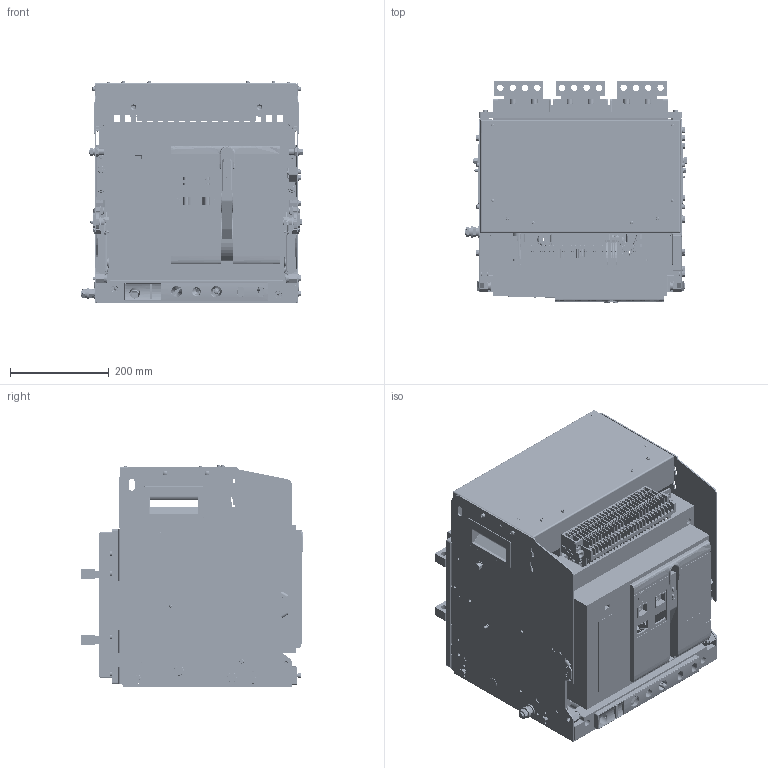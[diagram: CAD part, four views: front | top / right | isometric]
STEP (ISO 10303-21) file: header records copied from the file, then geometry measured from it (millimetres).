
FILE_DESCRIPTION((''),'2;1');
FILE_NAME('TENGEN_TGW1N-4000_3P_2500A-3200_ASM','2026-06-02T18:39:35',('chenjun'),(''),'CREO PARAMETRIC BY PTC INC, 2020354','CREO PARAMETRIC BY PTC INC, 2020354','');
FILE_SCHEMA(('CONFIG_CONTROL_DESIGN'));
Products named in the file (35): 8TZD_020_1016_1_1; GB_T809-M6X12-A_1_1; 5TZD_020_1043_ASM_1_ASM_1_ASM; 8TZD_001_1005_1_1; 8TZD_311_1031_1_1; 5TZD_260_1003_AF0_ASM_1_ASM_1_ASM; 8TZD_580_1088_1_1; 5TZD_260_1003_AF1_ASM_1_ASM_1_ASM; GB_T819_1-M6X16_1_1; 8TZD_580_1083_AF0_1_1; 8TZD_580_1082_AF0_1_1; 8TZD_580_1082_AF1_1_1; 8TZD_580_1083_AF1_1_1; 8TZD_580_1082_AF2_1_1; 8TZD_580_1082_AF3_1_1; GB_T97_1_8_1_1; GB_T93-8_1_1; GB_T70_1-M8X25_1_1; 5TZD_020_1044_AF0_ASM_1_ASM_1_ASM; GB_T97_1_6_1_1; GB_T93-6_1_1; GB_T70_1-M6X20_1_1; 6TZD_229_6011_AF0_ASM_1_ASM_1_ASM; 5TZD_558_1012_1_1; ASM0002_ASM_1_1; 111111111_1_1; 2TZD_257_6012_ASM_1_ASM_1_ASM; CTZ_1_1_2_1; CTZ_1_1_2_2; CTZ_1_1_2_3; CTZ_1_1_2_ASM; MZ_1; FHZ_1; 2TZD_257_6012_ASM_ASM_1_ASM; TENGEN_TGW1N-4000_3P_2500A-3200_ASM
Assembly tree (177 placements, depth 7):
  TENGEN_TGW1N-4000_3P_2500A-3200_ASM
    2TZD_257_6012_ASM_ASM_1_ASM
      2TZD_257_6012_ASM_1_ASM_1_ASM
        6TZD_229_6011_AF0_ASM_1_ASM_1_ASM
          5TZD_020_1044_AF0_ASM_1_ASM_1_ASM
            5TZD_020_1043_ASM_1_ASM_1_ASM
              8TZD_020_1016_1_1
              GB_T809-M6X12-A_1_1  x24
            5TZD_260_1003_AF0_ASM_1_ASM_1_ASM
              8TZD_001_1005_1_1
              8TZD_311_1031_1_1
            8TZD_580_1088_1_1  x6
            5TZD_260_1003_AF1_ASM_1_ASM_1_ASM
              8TZD_001_1005_1_1
              8TZD_311_1031_1_1
            GB_T819_1-M6X16_1_1  x24
            8TZD_580_1083_AF0_1_1
            8TZD_580_1082_AF0_1_1
            8TZD_580_1082_AF1_1_1
            8TZD_580_1083_AF1_1_1
            8TZD_580_1082_AF2_1_1
            8TZD_580_1082_AF3_1_1
            GB_T97_1_8_1_1  x24
            GB_T93-8_1_1  x24
            GB_T70_1-M8X25_1_1  x24
          GB_T97_1_6_1_1  x8
          GB_T93-6_1_1  x8
          GB_T70_1-M6X20_1_1  x8
        5TZD_558_1012_1_1
        ASM0002_ASM_1_1
        111111111_1_1
      CTZ_1_1_2_ASM
        CTZ_1_1_2_1
        CTZ_1_1_2_2
        CTZ_1_1_2_3
      MZ_1
      FHZ_1
Bounding box: 452.15 x 451 x 452 mm (x, y, z)
Volume: 8462489.7 mm3; surface area: 4260473.2 mm2
Topology: 166 solids, 391 shells, 18511 faces, 50991 edges, 33120 vertices
Faces by surface type: plane 10417, cylinder 5557, cone 1326, bspline 573, torus 534, sphere 86, extrusion 18
Entity records: 572755 total; most frequent: CARTESIAN_POINT 172229, ORIENTED_EDGE 85653, DIRECTION 81012, EDGE_CURVE 42998, VERTEX_POINT 28039, VECTOR 27806, LINE 27788, AXIS2_PLACEMENT_3D 26603
